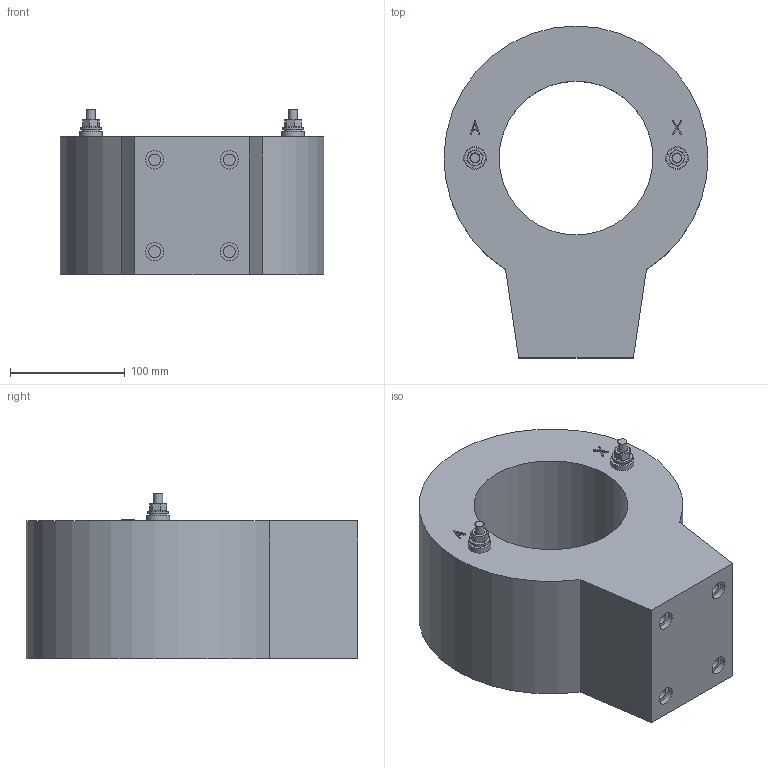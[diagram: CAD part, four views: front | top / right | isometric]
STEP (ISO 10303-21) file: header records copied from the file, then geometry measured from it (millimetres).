
FILE_DESCRIPTION(('STEP AP203'), '1');
FILE_NAME('栖闉罻 倛侐', '2024-04-24T13:11:04', ('UNSPECIFIED'), ('UNSPECIFIED'), 'ASCON STEP Converter 1.3', 'ASCON Math Kernel', '');
FILE_SCHEMA(('CONFIG_CONTROL_DESIGN'));
Length unit declared in the file: millimetre
Assembly tree (7 placements, depth 2):
  (unnamed)
    (unnamed)
    (unnamed)  x2
    (unnamed)  x2
    (unnamed)  x2
Bounding box: 229.94 x 289 x 144 mm (x, y, z)
Volume: 4139454.5 mm3; surface area: 229815.7 mm2
Topology: 7 solids, 7 shells, 195 faces, 470 edges, 304 vertices
Faces by surface type: cylinder 100, plane 67, cone 28
Full cylindrical faces by diameter (mm): 6.917 x2, 8 x2, 8.4 x4, 10.106 x4, 16 x6, 18 x2, 20 x2, 134 x1
Entity records: 6968 total; most frequent: CARTESIAN_POINT 1309, DIRECTION 913, ORIENTED_EDGE 778, EDGE_CURVE 389, AXIS2_PLACEMENT_3D 376, VERTEX_POINT 268, EDGE_LOOP 207, CIRCLE 204
